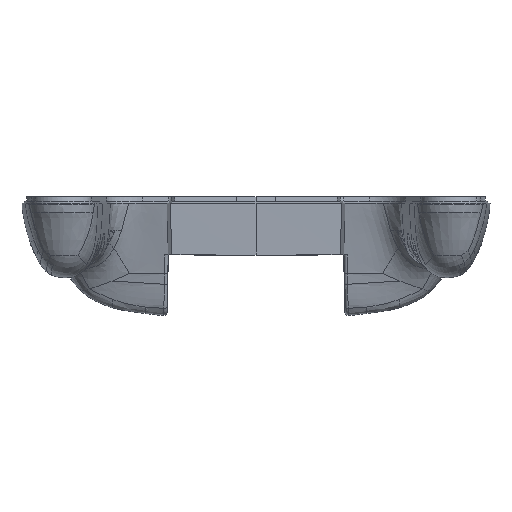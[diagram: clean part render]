
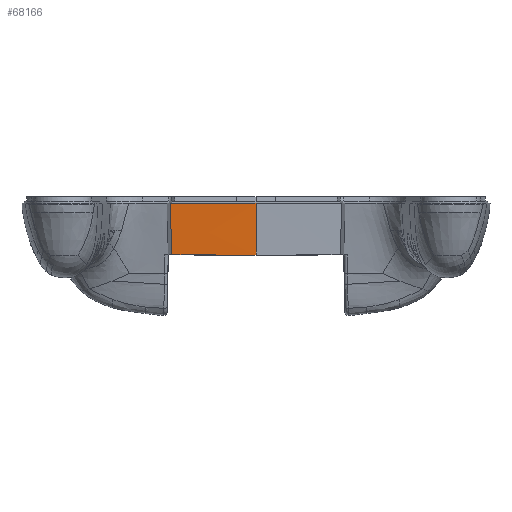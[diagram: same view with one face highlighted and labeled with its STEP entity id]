
A CAD part, front view. The second image highlights one B-rep face of the part: STEP entity #68166.
In plain terms, the highlighted free-form (B-spline) face has degree [7, 3] with [8, 5] control points.
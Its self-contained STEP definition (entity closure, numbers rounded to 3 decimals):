
#10023=CARTESIAN_POINT('',(-26.953,-21.709,-17.456));
#10024=VERTEX_POINT('',#10023);
#10030=CARTESIAN_POINT('',(-27.551,-22.492,-0.843));
#10031=VERTEX_POINT('',#10030);
#10032=CARTESIAN_POINT('',(-26.953,-21.709,-17.456));
#10033=CARTESIAN_POINT('',(-27.019,-21.789,-15.61));
#10034=CARTESIAN_POINT('',(-27.152,-21.953,-11.918));
#10035=CARTESIAN_POINT('',(-27.352,-22.213,-6.38));
#10036=CARTESIAN_POINT('',(-27.485,-22.397,-2.689));
#10037=CARTESIAN_POINT('',(-27.551,-22.492,-0.843));
#10038=B_SPLINE_CURVE_WITH_KNOTS('',3,(#10032,#10033,#10034,#10035,#10036,#10037),.UNSPECIFIED.,.F.,.U.,(4,1,1,4),(0.0,0.333,0.667,1.0),.UNSPECIFIED.);
#10039=EDGE_CURVE('',#10024,#10031,#10038,.T.);
#13679=CARTESIAN_POINT('',(-19.847,-21.718,-17.471));
#13680=VERTEX_POINT('',#13679);
#13681=CARTESIAN_POINT('',(-19.847,-21.718,-17.471));
#13682=CARTESIAN_POINT('',(-20.111,-21.718,-17.47));
#13683=CARTESIAN_POINT('',(-20.9,-21.717,-17.469));
#13684=CARTESIAN_POINT('',(-22.479,-21.714,-17.459));
#13685=CARTESIAN_POINT('',(-24.321,-21.712,-17.452));
#13686=CARTESIAN_POINT('',(-25.9,-21.71,-17.454));
#13687=CARTESIAN_POINT('',(-26.69,-21.709,-17.456));
#13688=CARTESIAN_POINT('',(-26.953,-21.709,-17.456));
#13689=B_SPLINE_CURVE_WITH_KNOTS('',3,(#13681,#13682,#13683,#13684,#13685,#13686,#13687,#13688),.UNSPECIFIED.,.F.,.U.,(4,1,1,1,1,4),(0.0,0.111,0.333,0.667,0.889,1.0),.UNSPECIFIED.);
#13690=EDGE_CURVE('',#13680,#10024,#13689,.T.);
#67602=CARTESIAN_POINT('',(0.01,-21.744,-17.492));
#67603=VERTEX_POINT('',#67602);
#67609=CARTESIAN_POINT('',(0.01,-21.744,-17.492));
#67610=CARTESIAN_POINT('',(-19.847,-21.718,-17.471));
#67611=QUASI_UNIFORM_CURVE('',1,(#67609,#67610),.UNSPECIFIED.,.F.,.U.);
#67612=EDGE_CURVE('',#67603,#13680,#67611,.T.);
#68102=CARTESIAN_POINT('',(0.01,-22.45,-0.334));
#68103=CARTESIAN_POINT('',(0.01,-22.36,-2.785));
#68104=CARTESIAN_POINT('',(0.01,-22.266,-5.237));
#68105=CARTESIAN_POINT('',(0.01,-22.169,-7.688));
#68106=CARTESIAN_POINT('',(0.01,-22.068,-10.139));
#68107=CARTESIAN_POINT('',(0.01,-21.964,-12.59));
#68108=CARTESIAN_POINT('',(0.01,-21.856,-15.041));
#68109=CARTESIAN_POINT('',(0.01,-21.744,-17.492));
#68110=CARTESIAN_POINT('',(-5.058,-22.465,-0.292));
#68111=CARTESIAN_POINT('',(-5.058,-22.367,-2.748));
#68112=CARTESIAN_POINT('',(-5.058,-22.268,-5.205));
#68113=CARTESIAN_POINT('',(-5.058,-22.167,-7.661));
#68114=CARTESIAN_POINT('',(-5.058,-22.063,-10.118));
#68115=CARTESIAN_POINT('',(-5.058,-21.957,-12.574));
#68116=CARTESIAN_POINT('',(-5.058,-21.848,-15.03));
#68117=CARTESIAN_POINT('',(-5.058,-21.738,-17.486));
#68118=CARTESIAN_POINT('',(-15.061,-22.493,-0.209));
#68119=CARTESIAN_POINT('',(-15.061,-22.382,-2.676));
#68120=CARTESIAN_POINT('',(-15.061,-22.272,-5.142));
#68121=CARTESIAN_POINT('',(-15.061,-22.162,-7.609));
#68122=CARTESIAN_POINT('',(-15.061,-22.052,-10.076));
#68123=CARTESIAN_POINT('',(-15.061,-21.943,-12.542));
#68124=CARTESIAN_POINT('',(-15.061,-21.834,-15.009));
#68125=CARTESIAN_POINT('',(-15.061,-21.725,-17.476));
#68126=CARTESIAN_POINT('',(-25.064,-22.518,-0.205));
#68127=CARTESIAN_POINT('',(-25.064,-22.394,-2.67));
#68128=CARTESIAN_POINT('',(-25.064,-22.274,-5.136));
#68129=CARTESIAN_POINT('',(-25.064,-22.156,-7.601));
#68130=CARTESIAN_POINT('',(-25.064,-22.04,-10.067));
#68131=CARTESIAN_POINT('',(-25.064,-21.928,-12.533));
#68132=CARTESIAN_POINT('',(-25.064,-21.818,-14.999));
#68133=CARTESIAN_POINT('',(-25.064,-21.711,-17.465));
#68134=CARTESIAN_POINT('',(-30.,-22.531,-0.203));
#68135=CARTESIAN_POINT('',(-30.,-22.4,-2.668));
#68136=CARTESIAN_POINT('',(-30.0,-22.274,-5.133));
#68137=CARTESIAN_POINT('',(-30.,-22.152,-7.598));
#68138=CARTESIAN_POINT('',(-30.,-22.034,-10.063));
#68139=CARTESIAN_POINT('',(-30.,-21.921,-12.528));
#68140=CARTESIAN_POINT('',(-30.,-21.811,-14.994));
#68141=CARTESIAN_POINT('',(-30.0,-21.705,-17.46));
#68142=B_SPLINE_SURFACE_WITH_KNOTS('',7,3,((#68102,#68110,#68118,#68126,#68134),(#68103,#68111,#68119,#68127,#68135),(#68104,#68112,#68120,#68128,#68136),(#68105,#68113,#68121,#68129,#68137),(#68106,#68114,#68122,#68130,#68138),(#68107,#68115,#68123,#68131,#68139),(#68108,#68116,#68124,#68132,#68140),(#68109,#68117,#68125,#68133,#68141)),.UNSPECIFIED.,.F.,.F.,.U.,(8,8),(4,1,4),(-0.032,1.0),(0.0,0.507,1.0),.UNSPECIFIED.);
#68143=ORIENTED_EDGE('',*,*,#13690,.F.);
#68144=ORIENTED_EDGE('',*,*,#67612,.F.);
#68145=CARTESIAN_POINT('',(0.01,-22.431,-0.843));
#68146=VERTEX_POINT('',#68145);
#68147=CARTESIAN_POINT('',(0.01,-22.431,-0.843));
#68148=CARTESIAN_POINT('',(0.01,-22.343,-3.222));
#68149=CARTESIAN_POINT('',(0.01,-22.252,-5.601));
#68150=CARTESIAN_POINT('',(0.01,-22.157,-7.979));
#68151=CARTESIAN_POINT('',(0.01,-22.059,-10.358));
#68152=CARTESIAN_POINT('',(0.01,-21.957,-12.736));
#68153=CARTESIAN_POINT('',(0.01,-21.853,-15.114));
#68154=CARTESIAN_POINT('',(0.01,-21.744,-17.492));
#68155=B_SPLINE_CURVE_WITH_KNOTS('',7,(#68147,#68148,#68149,#68150,#68151,#68152,#68153,#68154),.UNSPECIFIED.,.F.,.U.,(8,8),(-0.001,1.0),.UNSPECIFIED.);
#68156=EDGE_CURVE('',#68146,#67603,#68155,.T.);
#68157=ORIENTED_EDGE('',*,*,#68156,.F.);
#68158=CARTESIAN_POINT('',(-27.551,-22.492,-0.843));
#68159=CARTESIAN_POINT('',(0.01,-22.431,-0.843));
#68160=QUASI_UNIFORM_CURVE('',1,(#68158,#68159),.UNSPECIFIED.,.F.,.U.);
#68161=EDGE_CURVE('',#10031,#68146,#68160,.T.);
#68162=ORIENTED_EDGE('',*,*,#68161,.F.);
#68163=ORIENTED_EDGE('',*,*,#10039,.F.);
#68164=EDGE_LOOP('',(#68143,#68144,#68157,#68162,#68163));
#68165=FACE_OUTER_BOUND('',#68164,.T.);
#68166=ADVANCED_FACE('',(#68165),#68142,.F.);
